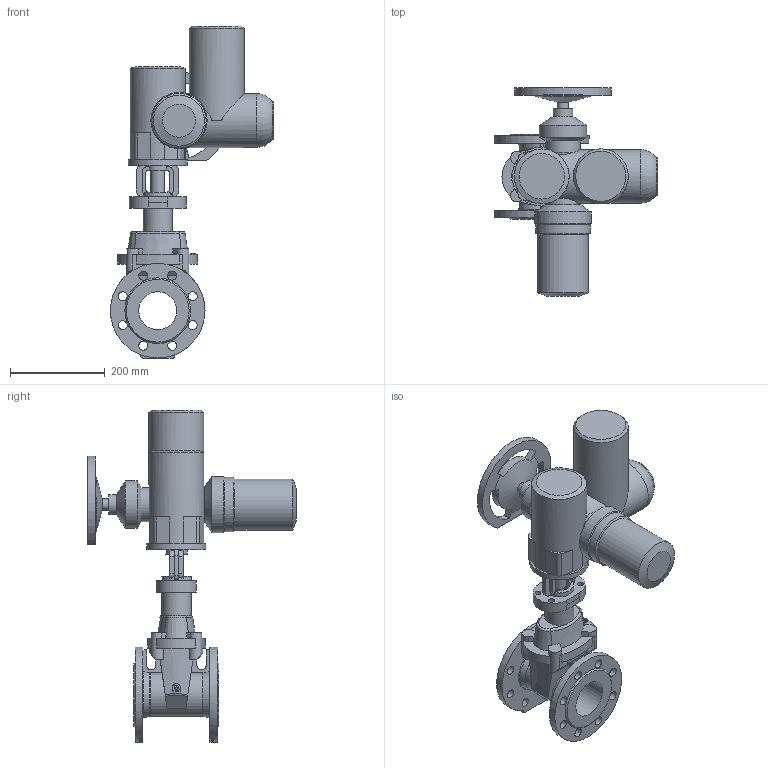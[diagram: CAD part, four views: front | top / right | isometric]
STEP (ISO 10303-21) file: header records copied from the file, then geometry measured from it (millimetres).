
FILE_DESCRIPTION(('STEP AP203'), '1');
FILE_NAME('青溻桄赅 47GV.M DN80 + MT903.A07', '', ('UNSPECIFIED'), ('UNSPECIFIED'), 'ASCON STEP Converter 1.6', 'ASCON Math Kernel', '');
FILE_SCHEMA(('CONFIG_CONTROL_DESIGN'));
Length unit declared in the file: millimetre
Bounding box: 345 x 440 x 702 mm (x, y, z)
Volume: 11366882.7 mm3; surface area: 762095 mm2
Topology: 1 solids, 1 shells, 337 faces, 889 edges, 579 vertices
Faces by surface type: plane 170, cylinder 138, cone 18, torus 9, bspline 2
Full cylindrical faces by diameter (mm): 8.5 x4, 12 x8, 19 x16, 20 x2, 24 x1, 29 x1, 30 x1, 42 x1, 46 x1, 62 x1, 66 x1, 70 x2, 72 x1, 80 x2, 100 x1, 108 x1, 114 x1, 115 x1, 116 x2, 119 x1, 125 x1, 200 x2
Entity records: 15572 total; most frequent: CARTESIAN_POINT 4582, DIRECTION 1730, ORIENTED_EDGE 1646, EDGE_CURVE 823, AXIS2_PLACEMENT_3D 675, VERTEX_POINT 579, EDGE_LOOP 478, LINE 380
